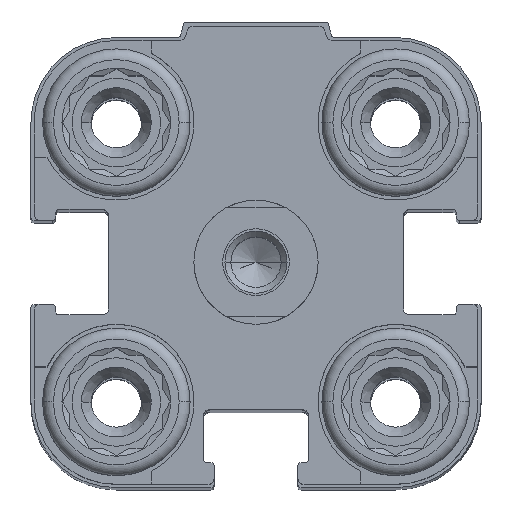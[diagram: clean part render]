
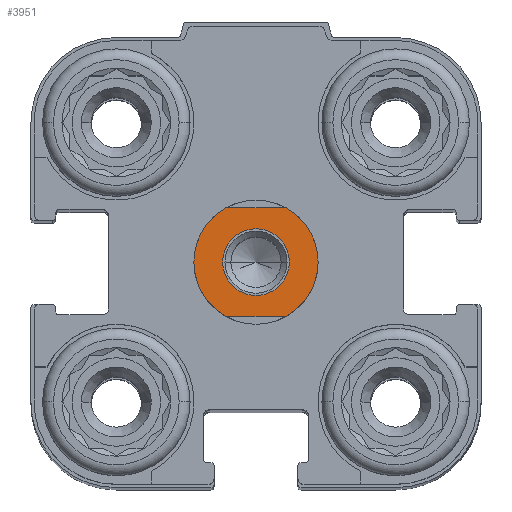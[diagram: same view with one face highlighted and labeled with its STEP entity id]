
A CAD part, top view. The second image highlights one B-rep face of the part: STEP entity #3951.
In plain terms, the highlighted planar face has unit normal (0, 0, 1).
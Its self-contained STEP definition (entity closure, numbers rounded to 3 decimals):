
#65 = DIRECTION ( 'NONE',  ( -1., 0., 0. ) ) ;
#256 = EDGE_CURVE ( 'NONE', #11028, #2343, #10981, .T. ) ;
#651 = VECTOR ( 'NONE', #14521, 1000. ) ;
#827 = CARTESIAN_POINT ( 'NONE',  ( 0., 0., 4.5 ) ) ;
#830 = AXIS2_PLACEMENT_3D ( 'NONE', #15061, #8160, #8426 ) ;
#924 = CARTESIAN_POINT ( 'NONE',  ( -2.15, 0., 4.5 ) ) ;
#1137 = CIRCLE ( 'NONE', #8598, 2.15 ) ;
#1410 = CIRCLE ( 'NONE', #8857, 4. ) ;
#1609 = CARTESIAN_POINT ( 'NONE',  ( -4., 0., 4.5 ) ) ;
#2343 = VERTEX_POINT ( 'NONE', #8659 ) ;
#2937 = EDGE_LOOP ( 'NONE', ( #3162, #13685, #3159, #6919, #6959, #8845 ) ) ;
#3159 = ORIENTED_EDGE ( 'NONE', *, *, #11568, .F. ) ;
#3162 = ORIENTED_EDGE ( 'NONE', *, *, #9029, .F. ) ;
#3287 = PLANE ( 'NONE',  #3736 ) ;
#3686 = VECTOR ( 'NONE', #11496, 1000. ) ;
#3736 = AXIS2_PLACEMENT_3D ( 'NONE', #7242, #8766, #15759 ) ;
#3951 = ADVANCED_FACE ( 'NONE', ( #14348, #10296 ), #3287, .F. ) ;
#4002 = DIRECTION ( 'NONE',  ( 0., 0., -1. ) ) ;
#4326 = VERTEX_POINT ( 'NONE', #13415 ) ;
#5106 = VERTEX_POINT ( 'NONE', #14785 ) ;
#5396 = VERTEX_POINT ( 'NONE', #8310 ) ;
#5987 = CIRCLE ( 'NONE', #13164, 4. ) ;
#6780 = CARTESIAN_POINT ( 'NONE',  ( 0., 0., 4.5 ) ) ;
#6795 = CARTESIAN_POINT ( 'NONE',  ( 0., 0., 4.5 ) ) ;
#6919 = ORIENTED_EDGE ( 'NONE', *, *, #256, .F. ) ;
#6959 = ORIENTED_EDGE ( 'NONE', *, *, #7962, .F. ) ;
#7113 = DIRECTION ( 'NONE',  ( -1., 0., 0. ) ) ;
#7242 = CARTESIAN_POINT ( 'NONE',  ( 0., 0., 4.5 ) ) ;
#7253 = VERTEX_POINT ( 'NONE', #924 ) ;
#7470 = DIRECTION ( 'NONE',  ( 0., 0., -1. ) ) ;
#7739 = DIRECTION ( 'NONE',  ( -1., 0., 0. ) ) ;
#7962 = EDGE_CURVE ( 'NONE', #4326, #11028, #15566, .T. ) ;
#8160 = DIRECTION ( 'NONE',  ( 0., 0., -1. ) ) ;
#8310 = CARTESIAN_POINT ( 'NONE',  ( -1.936, 3.5, 4.5 ) ) ;
#8426 = DIRECTION ( 'NONE',  ( -1., 0., 0. ) ) ;
#8598 = AXIS2_PLACEMENT_3D ( 'NONE', #827, #7470, #7739 ) ;
#8659 = CARTESIAN_POINT ( 'NONE',  ( -1.936, -3.5, 4.5 ) ) ;
#8692 = CARTESIAN_POINT ( 'NONE',  ( 7., -3.5, 4.5 ) ) ;
#8766 = DIRECTION ( 'NONE',  ( 0., 0., -1. ) ) ;
#8845 = ORIENTED_EDGE ( 'NONE', *, *, #11573, .F. ) ;
#8857 = AXIS2_PLACEMENT_3D ( 'NONE', #6780, #4002, #65 ) ;
#9029 = EDGE_CURVE ( 'NONE', #5396, #12490, #10570, .T. ) ;
#9175 = EDGE_CURVE ( 'NONE', #12442, #5396, #1410, .T. ) ;
#9447 = ORIENTED_EDGE ( 'NONE', *, *, #11681, .T. ) ;
#9722 = CIRCLE ( 'NONE', #830, 4. ) ;
#10296 = FACE_BOUND ( 'NONE', #12662, .T. ) ;
#10570 = LINE ( 'NONE', #10758, #651 ) ;
#10758 = CARTESIAN_POINT ( 'NONE',  ( -7., 3.5, 4.5 ) ) ;
#10768 = DIRECTION ( 'NONE',  ( -1., 0., 0. ) ) ;
#10981 = LINE ( 'NONE', #8692, #3686 ) ;
#11028 = VERTEX_POINT ( 'NONE', #12712 ) ;
#11250 = ORIENTED_EDGE ( 'NONE', *, *, #15499, .T. ) ;
#11346 = CARTESIAN_POINT ( 'NONE',  ( 0., 0., 4.5 ) ) ;
#11496 = DIRECTION ( 'NONE',  ( -1., 0., 0. ) ) ;
#11568 = EDGE_CURVE ( 'NONE', #2343, #12442, #5987, .T. ) ;
#11573 = EDGE_CURVE ( 'NONE', #12490, #4326, #9722, .T. ) ;
#11674 = CARTESIAN_POINT ( 'NONE',  ( 1.936, 3.5, 4.5 ) ) ;
#11681 = EDGE_CURVE ( 'NONE', #5106, #7253, #14879, .T. ) ;
#11813 = DIRECTION ( 'NONE',  ( 0., 0., -1. ) ) ;
#12290 = DIRECTION ( 'NONE',  ( 0., 0., -1. ) ) ;
#12442 = VERTEX_POINT ( 'NONE', #1609 ) ;
#12490 = VERTEX_POINT ( 'NONE', #11674 ) ;
#12647 = CARTESIAN_POINT ( 'NONE',  ( 0., 0., 4.5 ) ) ;
#12662 = EDGE_LOOP ( 'NONE', ( #11250, #9447 ) ) ;
#12712 = CARTESIAN_POINT ( 'NONE',  ( 1.936, -3.5, 4.5 ) ) ;
#12783 = DIRECTION ( 'NONE',  ( 0., 0., -1. ) ) ;
#13164 = AXIS2_PLACEMENT_3D ( 'NONE', #6795, #12290, #10768 ) ;
#13415 = CARTESIAN_POINT ( 'NONE',  ( 4., 0., 4.5 ) ) ;
#13685 = ORIENTED_EDGE ( 'NONE', *, *, #9175, .F. ) ;
#14348 = FACE_OUTER_BOUND ( 'NONE', #2937, .T. ) ;
#14521 = DIRECTION ( 'NONE',  ( 1., 0., 0. ) ) ;
#14785 = CARTESIAN_POINT ( 'NONE',  ( 2.15, 0., 4.5 ) ) ;
#14879 = CIRCLE ( 'NONE', #15723, 2.15 ) ;
#15061 = CARTESIAN_POINT ( 'NONE',  ( 0., 0., 4.5 ) ) ;
#15499 = EDGE_CURVE ( 'NONE', #7253, #5106, #1137, .T. ) ;
#15566 = CIRCLE ( 'NONE', #17010, 4. ) ;
#15723 = AXIS2_PLACEMENT_3D ( 'NONE', #12647, #11813, #16949 ) ;
#15759 = DIRECTION ( 'NONE',  ( 0., 1., 0. ) ) ;
#16949 = DIRECTION ( 'NONE',  ( -1., 0., 0. ) ) ;
#17010 = AXIS2_PLACEMENT_3D ( 'NONE', #11346, #12783, #7113 ) ;
